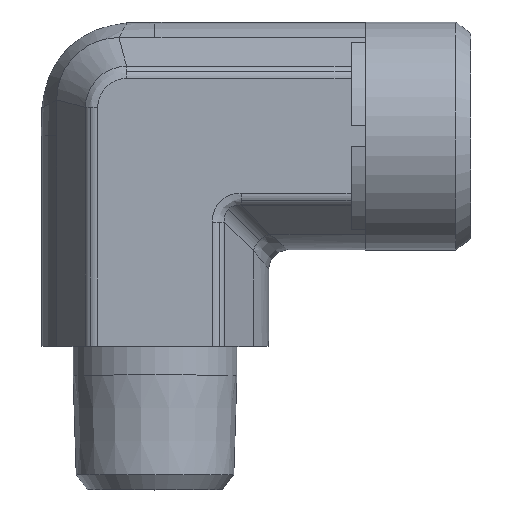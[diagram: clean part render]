
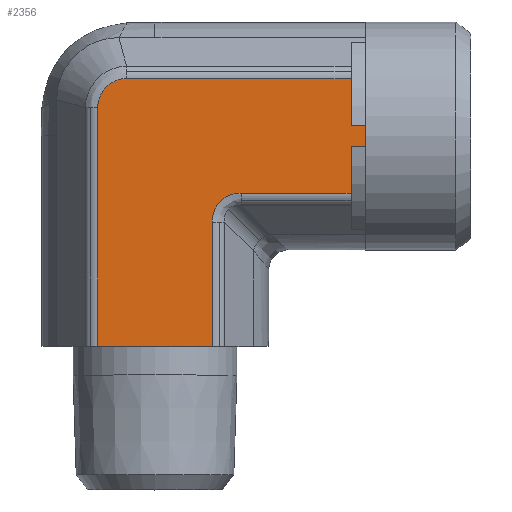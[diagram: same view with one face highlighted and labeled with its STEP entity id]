
A CAD part, top view. The second image highlights one B-rep face of the part: STEP entity #2356.
In plain terms, the highlighted planar face has unit normal (0, 0, 1) as drawn and (0, -1, 0) by its records, which use the part's own axes.
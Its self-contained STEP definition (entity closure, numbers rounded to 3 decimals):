
#361=CARTESIAN_POINT('',(4.521,-11.875,5.99));
#362=VERTEX_POINT('',#361);
#370=CARTESIAN_POINT('',(17.5,-11.875,5.99));
#371=VERTEX_POINT('',#370);
#372=CARTESIAN_POINT('',(4.521,-11.875,5.99));
#373=DIRECTION('',(1.0,0.0,0.0));
#374=VECTOR('',#373,12.979);
#375=LINE('',#372,#374);
#376=EDGE_CURVE('',#362,#371,#375,.T.);
#485=CARTESIAN_POINT('',(-10.49,-11.875,-2.973));
#486=VERTEX_POINT('',#485);
#494=CARTESIAN_POINT('',(-10.49,-11.875,20.5));
#495=VERTEX_POINT('',#494);
#496=CARTESIAN_POINT('',(-10.49,-11.875,-2.973));
#497=DIRECTION('',(0.0,0.0,1.0));
#498=VECTOR('',#497,23.473);
#499=LINE('',#496,#498);
#500=EDGE_CURVE('',#486,#495,#499,.T.);
#1834=CARTESIAN_POINT('',(1.49,-11.875,20.5));
#1835=VERTEX_POINT('',#1834);
#1836=CARTESIAN_POINT('',(-3.409,-11.875,20.5));
#1837=VERTEX_POINT('',#1836);
#1838=CARTESIAN_POINT('',(1.49,-11.875,20.5));
#1839=DIRECTION('',(-1.0,0.0,0.0));
#1840=VECTOR('',#1839,4.899);
#1841=LINE('',#1838,#1840);
#1842=EDGE_CURVE('',#1835,#1837,#1841,.T.);
#1893=CARTESIAN_POINT('',(-5.591,-11.875,20.5));
#1894=VERTEX_POINT('',#1893);
#1895=CARTESIAN_POINT('',(-5.591,-11.875,20.5));
#1896=DIRECTION('',(-1.0,0.0,0.0));
#1897=VECTOR('',#1896,4.899);
#1898=LINE('',#1895,#1897);
#1899=EDGE_CURVE('',#1894,#495,#1898,.T.);
#1998=CARTESIAN_POINT('',(-3.409,-11.875,22.0));
#1999=VERTEX_POINT('',#1998);
#2000=CARTESIAN_POINT('',(-3.409,-11.875,20.5));
#2001=DIRECTION('',(0.0,0.0,1.0));
#2002=VECTOR('',#2001,1.5);
#2003=LINE('',#2000,#2002);
#2004=EDGE_CURVE('',#1837,#1999,#2003,.T.);
#2039=CARTESIAN_POINT('',(-5.591,-11.875,22.0));
#2040=VERTEX_POINT('',#2039);
#2041=CARTESIAN_POINT('',(-5.591,-11.875,22.0));
#2042=DIRECTION('',(0.0,0.0,-1.0));
#2043=VECTOR('',#2042,1.5);
#2044=LINE('',#2041,#2043);
#2045=EDGE_CURVE('',#2040,#1894,#2044,.T.);
#2268=CARTESIAN_POINT('',(-4.5,-11.875,22.0));
#2269=VERTEX_POINT('',#2268);
#2270=CARTESIAN_POINT('',(-4.5,-11.875,22.0));
#2271=DIRECTION('',(-1.0,0.0,0.0));
#2272=VECTOR('',#2271,1.091);
#2273=LINE('',#2270,#2272);
#2274=EDGE_CURVE('',#2269,#2040,#2273,.T.);
#2292=CARTESIAN_POINT('',(-4.5,-11.875,-3.175));
#2293=DIRECTION('',(0.0,-1.0,0.0));
#2294=DIRECTION('',(0.0,0.0,-1.0));
#2295=AXIS2_PLACEMENT_3D('',#2292,#2293,#2294);
#2296=PLANE('',#2295);
#2297=ORIENTED_EDGE('',*,*,#2045,.T.);
#2298=ORIENTED_EDGE('',*,*,#1899,.T.);
#2299=ORIENTED_EDGE('',*,*,#500,.F.);
#2300=CARTESIAN_POINT('',(-7.473,-11.875,-5.99));
#2301=VERTEX_POINT('',#2300);
#2302=CARTESIAN_POINT('',(-10.49,-11.875,-2.973));
#2303=CARTESIAN_POINT('',(-10.49,-11.875,-3.17));
#2304=CARTESIAN_POINT('',(-10.471,-11.875,-3.368));
#2305=CARTESIAN_POINT('',(-10.369,-11.875,-3.873));
#2306=CARTESIAN_POINT('',(-10.259,-11.875,-4.171));
#2307=CARTESIAN_POINT('',(-9.855,-11.875,-4.889));
#2308=CARTESIAN_POINT('',(-9.496,-11.875,-5.266));
#2309=CARTESIAN_POINT('',(-8.588,-11.875,-5.831));
#2310=CARTESIAN_POINT('',(-8.031,-11.875,-5.99));
#2311=CARTESIAN_POINT('',(-7.473,-11.875,-5.99));
#2312=B_SPLINE_CURVE_WITH_KNOTS('',3,(#2302,#2303,#2304,#2305,#2306,#2307,#2308,#2309,#2310,#2311),.UNSPECIFIED.,.F.,.U.,(4,2,2,2,4),(-4.713,-4.124,-3.181,-1.673,0.0),.UNSPECIFIED.);
#2313=EDGE_CURVE('',#2301,#486,#2312,.F.);
#2314=ORIENTED_EDGE('',*,*,#2313,.F.);
#2315=CARTESIAN_POINT('',(17.5,-11.875,-5.99));
#2316=VERTEX_POINT('',#2315);
#2317=CARTESIAN_POINT('',(17.5,-11.875,-5.99));
#2318=DIRECTION('',(-1.0,0.0,0.0));
#2319=VECTOR('',#2318,24.973);
#2320=LINE('',#2317,#2319);
#2321=EDGE_CURVE('',#2316,#2301,#2320,.T.);
#2322=ORIENTED_EDGE('',*,*,#2321,.F.);
#2323=CARTESIAN_POINT('',(17.5,-11.875,-5.99));
#2324=DIRECTION('',(0.0,0.0,1.0));
#2325=VECTOR('',#2324,11.98);
#2326=LINE('',#2323,#2325);
#2327=EDGE_CURVE('',#2316,#371,#2326,.T.);
#2328=ORIENTED_EDGE('',*,*,#2327,.T.);
#2329=ORIENTED_EDGE('',*,*,#376,.F.);
#2330=CARTESIAN_POINT('',(1.49,-11.875,9.021));
#2331=VERTEX_POINT('',#2330);
#2332=CARTESIAN_POINT('',(5.531,-11.875,10.031));
#2333=DIRECTION('',(0.,-1.,0.));
#2334=DIRECTION('',(-0.707,0.,-0.707));
#2335=AXIS2_PLACEMENT_3D('',#2332,#2333,#2334);
#2336=ELLIPSE('',#2335,4.518,3.5);
#2337=EDGE_CURVE('',#2331,#362,#2336,.T.);
#2338=ORIENTED_EDGE('',*,*,#2337,.F.);
#2339=CARTESIAN_POINT('',(1.49,-11.875,20.5));
#2340=DIRECTION('',(0.0,0.0,-1.0));
#2341=VECTOR('',#2340,11.479);
#2342=LINE('',#2339,#2341);
#2343=EDGE_CURVE('',#1835,#2331,#2342,.T.);
#2344=ORIENTED_EDGE('',*,*,#2343,.F.);
#2345=ORIENTED_EDGE('',*,*,#1842,.T.);
#2346=ORIENTED_EDGE('',*,*,#2004,.T.);
#2347=CARTESIAN_POINT('',(-3.409,-11.875,22.0));
#2348=DIRECTION('',(-1.0,0.0,0.0));
#2349=VECTOR('',#2348,1.091);
#2350=LINE('',#2347,#2349);
#2351=EDGE_CURVE('',#1999,#2269,#2350,.T.);
#2352=ORIENTED_EDGE('',*,*,#2351,.T.);
#2353=ORIENTED_EDGE('',*,*,#2274,.T.);
#2354=EDGE_LOOP('',(#2297,#2298,#2299,#2314,#2322,#2328,#2329,#2338,#2344,#2345,#2346,#2352,#2353));
#2355=FACE_OUTER_BOUND('',#2354,.T.);
#2356=ADVANCED_FACE('',(#2355),#2296,.T.);
